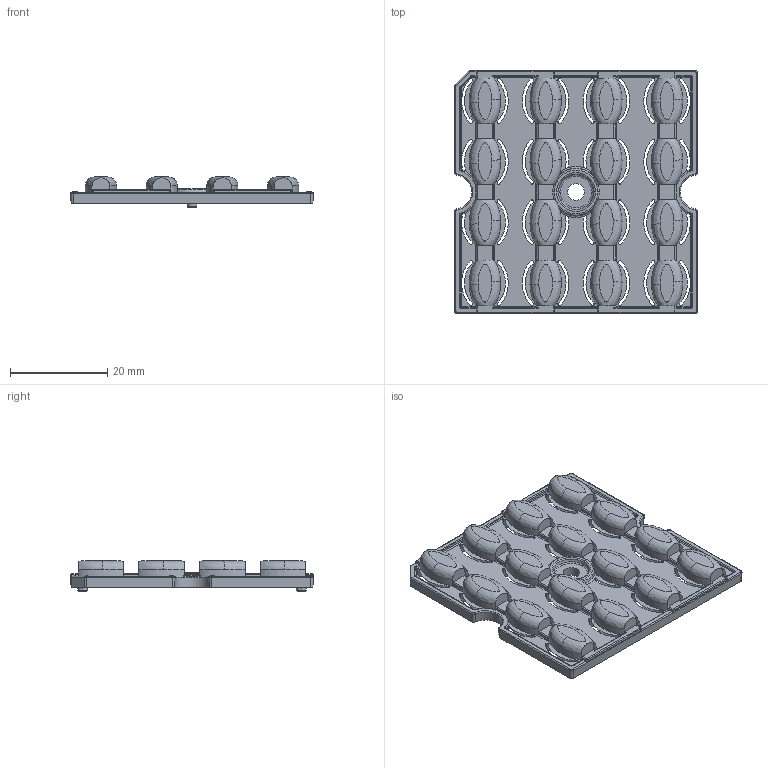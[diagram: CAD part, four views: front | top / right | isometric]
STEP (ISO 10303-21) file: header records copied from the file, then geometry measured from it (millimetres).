
FILE_DESCRIPTION(('CAx-IF Rec.Pracs.---Model Styling and Organization---1.2---2011-12-15','CAx-IF Rec.Pracs.---Geometric and Assembly Validation Properties---4.3---2015-07-16','CAx-IF Rec.Pracs.---Representation and Presentation of Product Manufacturing Information (PMI)---4.0.3---2016-08-25'),'2;1');
FILE_NAME('022YR09Y02.stp','2022-03-21T13:45:47+01:00',(''),(''),'STEP Interface 4.5 by CT CoreTechnologie','3D_Evolution4.5 by CT CoreTechnologie','');
FILE_SCHEMA(('AP203_CONFIGURATION_CONTROLLED_3D_DESIGN_OF_MECHANICAL_PARTS_AND_ASSEMBLIES_MIM_LF'));
Length unit declared in the file: millimetre
Products named in the file (1): 022-R09-02
Bounding box: 49.98 x 49.98 x 6.2 mm (x, y, z)
Volume: 6169.1 mm3; surface area: 7707.1 mm2
Topology: 1 solids, 1 shells, 1131 faces, 3109 edges, 2002 vertices
Faces by surface type: bspline 526, plane 424, cylinder 181
Entity records: 84259 total; most frequent: CARTESIAN_POINT 49558, ORIENTED_EDGE 5990, DIRECTION 4573, EDGE_CURVE 2995, VERTEX_POINT 1957, VECTOR 1563, LINE 1563, AXIS2_PLACEMENT_3D 1505
